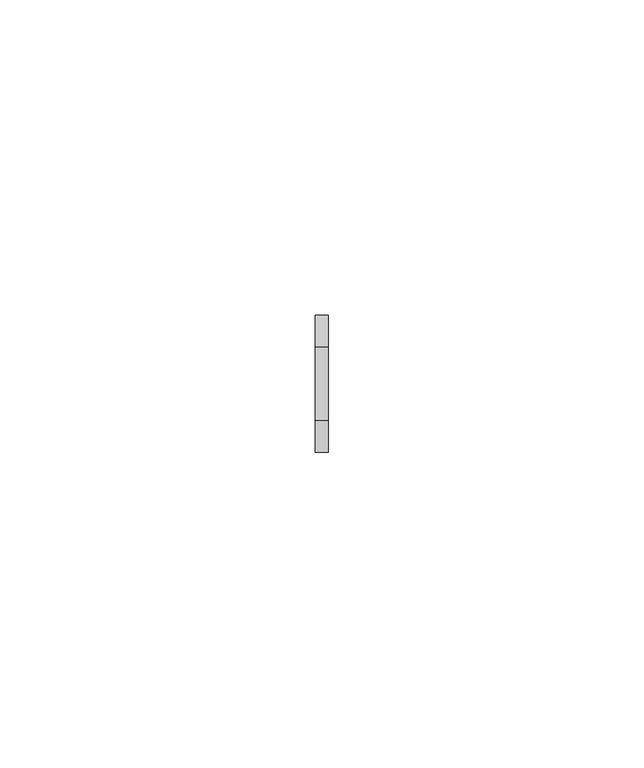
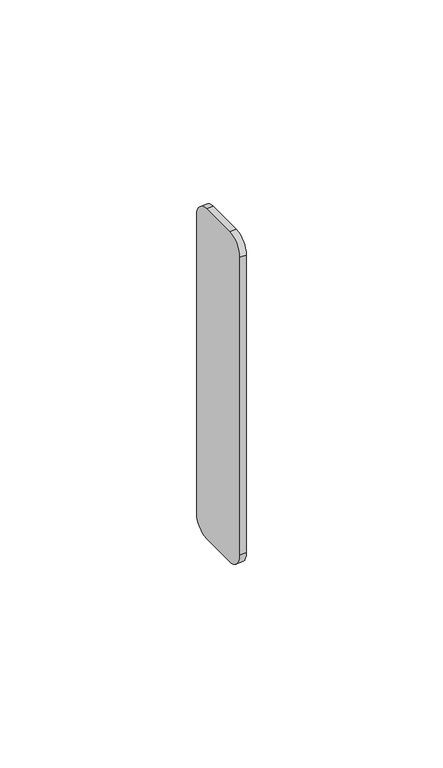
"""IFC4 building model written with IfcOpenShell, lengths in millimetres: proxy geometry, Odbojniki - OPW63 : Odbojniki - OPW63."""

from ifc_helpers import new_model, si_unit, point, frame, frame_2d, origin, place, context, project, spatial, polyline, circle_curve, trimmed, segment, composite_curve, outline, extrude, source, transform, mapped, element, save


def generic_models_5630e756(model_context):
    return source(origin(), model_context, "Body", "SweptSolid", [
        extrude(outline(composite_curve([segment(polyline([(10.0, 65.7697777), (10.0, -26.5923048)]), True, "CONTINUOUS"), segment(trimmed(circle_curve(frame_2d((5.0, -26.5923048)), 5.0), [point((10.0, -26.5923048))], [point((5.0, -31.5923048))], False, "CARTESIAN"), True, "CONTINUOUS"), segment(polyline([(5.0, -31.5923048), (-6.7000015, -31.5923048)]), True, "CONTINUOUS"), segment(trimmed(circle_curve(frame_2d((-6.7000015, -26.5923048)), 5.0), [point((-6.7000015, -31.5923048))], [point((-11.7000015, -26.5923048))], False, "CARTESIAN"), True, "CONTINUOUS"), segment(polyline([(-11.7000015, -26.5923048), (-11.7000015, 65.7697777)]), True, "CONTINUOUS"), segment(trimmed(circle_curve(frame_2d((-6.7000015, 65.7697777)), 5.0), [point((-11.7000015, 65.7697777))], [point((-6.7000015, 70.7697777))], False, "CARTESIAN"), True, "CONTINUOUS"), segment(polyline([(-6.7000015, 70.7697777), (5.0, 70.7697777)]), True, "CONTINUOUS"), segment(trimmed(circle_curve(frame_2d((5.0, 65.7697777)), 5.0), [point((5.0, 70.7697777))], [point((10.0, 65.7697777))], False, "CARTESIAN"), True, "CONTINUOUS")], self_intersect=False)), frame((-3.0, 0.0, 0.0), z_axis=(1.0, 0.0, 0.0), x_axis=(0.0, 1.0, 0.0)), (0.0, 0.0, 1.0), 2.0),
    ])


if __name__ == "__main__":
    model = new_model("IFC4")
    model_context = context("Model", 3, world=origin())
    ifc_project = project(units=[si_unit("LENGTHUNIT", "METRE", prefix="MILLI")], contexts=[model_context])
    site = spatial("IfcSite", under=ifc_project)
    building = spatial("IfcBuilding", under=site)
    placement = place(None, origin())
    generic_models_shape = generic_models_5630e756(model_context)
    element("IfcBuildingElementProxy", 1, Name="Odbojniki - OPW63 : Odbojniki - OPW63", ObjectType="Odbojniki - OPW63 : Odbojniki - OPW63", at=placement, inside=building, context=model_context, shape_type="MappedRepresentation", body=[
        mapped(generic_models_shape, transform((0.0, 0.0, 0.0), x_axis=(1.0, 0.0, 0.0), y_axis=(0.0, 1.0, 0.0), z_axis=(0.0, 0.0, 1.0))),
    ])
    save(model, "model.ifc")
